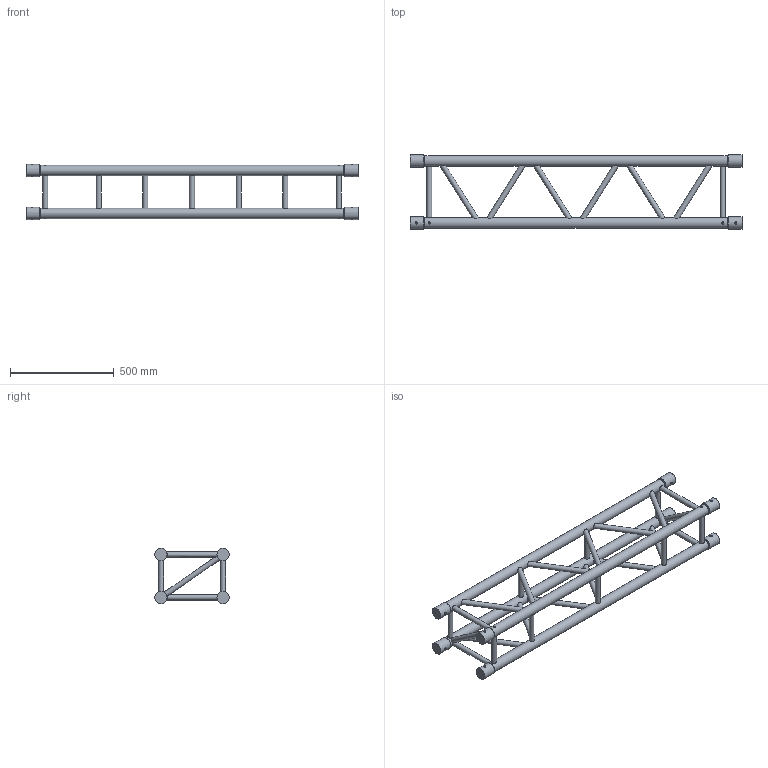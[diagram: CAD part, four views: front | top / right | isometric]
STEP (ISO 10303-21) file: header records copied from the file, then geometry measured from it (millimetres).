
FILE_DESCRIPTION(/* description */ (''),/* implementation_level */ '2;1');
FILE_NAME(/* name */ 'C:\Users\adrian.toca\Desktop\111110048.stp',/* time_stamp */ '2016-09-14T10:51:30+03:00',/* author */ ('adrian.toca'),/* organization */ (''),/* preprocessor_version */ 'ST-DEVELOPER v15.6',/* originating_system */ 'Autodesk Inventor 2015',/* authorisation */ '');
FILE_SCHEMA (('AUTOMOTIVE_DESIGN { 1 0 10303 214 3 1 1 }'));
Length unit declared in the file: millimetre
Products named in the file (1): 260030902
Bounding box: 1600 x 357.8 x 265.8 mm (x, y, z)
Volume: 16147938.8 mm3; surface area: 1590080 mm2
Topology: 11 solids, 15 shells, 189 faces, 359 edges, 210 vertices
Faces by surface type: cylinder 93, plane 88, cone 8
Full cylindrical faces by diameter (mm): 10 x8, 25 x27, 50 x4, 58.8 x8
Entity records: 6485 total; most frequent: CARTESIAN_POINT 2842, DIRECTION 678, ORIENTED_EDGE 608, EDGE_LOOP 320, AXIS2_PLACEMENT_3D 320, EDGE_CURVE 270, VERTEX_POINT 196, STYLED_ITEM 176
